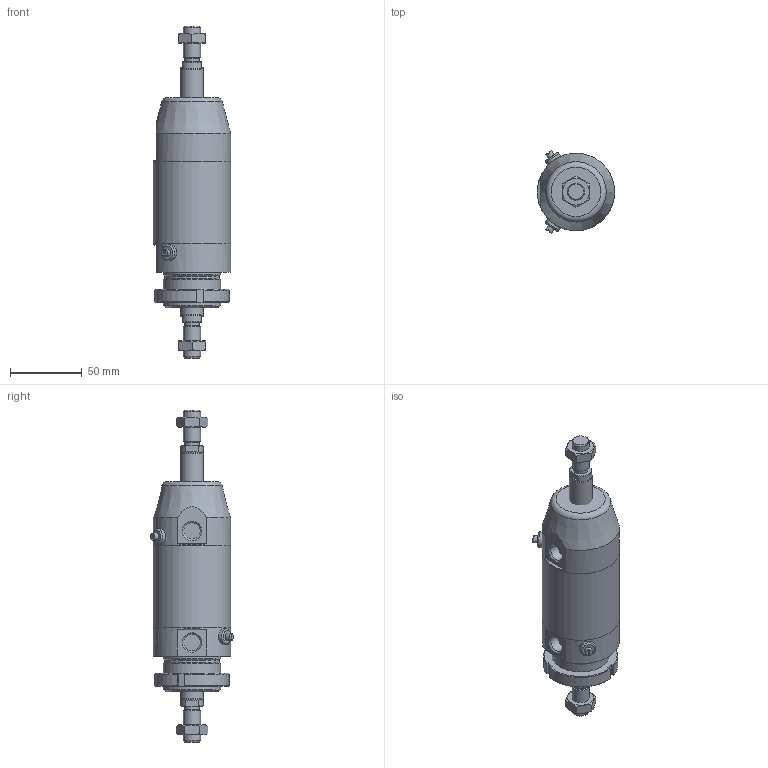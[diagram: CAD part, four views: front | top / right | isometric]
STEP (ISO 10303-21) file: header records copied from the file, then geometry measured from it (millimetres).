
FILE_DESCRIPTION(/* description */ (''),/* implementation_level */ '2;1');
FILE_NAME(/* name */ 'I:\Area Tecnica\Documenti\A-Manieri\_Inventor\12X\12X#T_###_####_#_#\12XDT_050_0015_#_#.stp',/* time_stamp */ '2015-05-13T09:08:41+02:00',/* author */ ('maniean1'),/* organization */ ('Pneumax S.p.A.'),/* preprocessor_version */ 'ST-DEVELOPER v15.2',/* originating_system */ 'Autodesk Inventor 2014',/* authorisation */ '');
FILE_SCHEMA (('AUTOMOTIVE_DESIGN { 1 0 10303 214 3 1 1 }'));
Length unit declared in the file: millimetre
Products named in the file (7): C1250_619-0015; 12X50_606; SP12X50_0015; 12X_50_11; 12X50_614; G12X_050_05; 12XDT_050_0015_#_#
Bounding box: 54 x 57.75 x 232 mm (x, y, z)
Volume: 295400.7 mm3; surface area: 71127.1 mm2
Topology: 7 solids, 7 shells, 125 faces, 281 edges, 181 vertices
Faces by surface type: plane 66, cylinder 30, cone 26, torus 3
Full cylindrical faces by diameter (mm): 5 x2, 10.2 x2, 11 x2, 11.4 x2, 12 x4, 14 x2, 15.6 x2, 16 x2, 38.2 x1, 40 x3, 50 x2, 54 x3
Entity records: 3058 total; most frequent: CARTESIAN_POINT 614, DIRECTION 513, ORIENTED_EDGE 402, AXIS2_PLACEMENT_3D 219, EDGE_CURVE 201, EDGE_LOOP 178, VERTEX_POINT 153, ADVANCED_FACE 114
